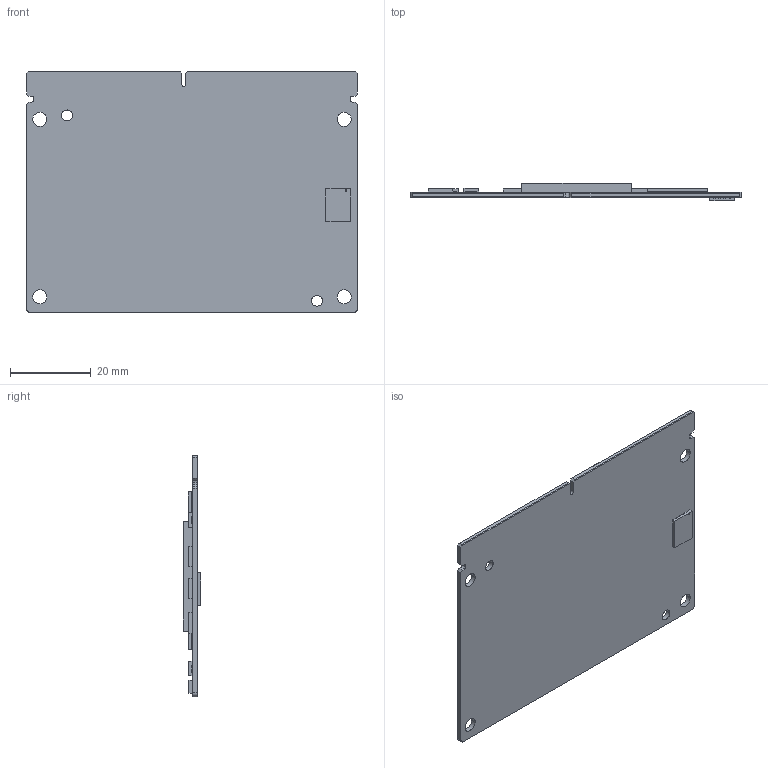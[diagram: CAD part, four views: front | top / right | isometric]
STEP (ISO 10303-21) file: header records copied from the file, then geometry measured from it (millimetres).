
FILE_DESCRIPTION((''),'2;1');
FILE_NAME('_OFFERING_1_ASM','2023-04-10T17:41:58',('dWX1091079'),(''),'CREO PARAMETRIC BY PTC INC, 2019444','CREO PARAMETRIC BY PTC INC, 2019444','');
FILE_SCHEMA(('CONFIG_CONTROL_DESIGN'));
Length unit declared in the file: millimetre
Products named in the file (12): _OFFERING_1_1; _OFFERING_1_2; _OFFERING_1_3; _OFFERING_1_4; _OFFERING_1_5; _OFFERING_1_6; _OFFERING_1_7; _OFFERING_1_8; _OFFERING_1_9; _OFFERING_1_10; LIANJIEQI; _OFFERING_1_ASM
Assembly tree (12 placements, depth 2):
  _OFFERING_1_ASM
    _OFFERING_1_1
    _OFFERING_1_2
    _OFFERING_1_3
    _OFFERING_1_4
    _OFFERING_1_5
    _OFFERING_1_6
    _OFFERING_1_7
    _OFFERING_1_8
    _OFFERING_1_9
    _OFFERING_1_10
    LIANJIEQI  x2
Bounding box: 82 x 4.39 x 60 mm (x, y, z)
Volume: 8108.6 mm3; surface area: 12180.5 mm2
Topology: 9 solids, 108 shells, 580 faces, 2833 edges, 2363 vertices
Faces by surface type: plane 446, cylinder 92, sphere 42
Entity records: 30736 total; most frequent: CARTESIAN_POINT 9343, ORIENTED_EDGE 4100, DIRECTION 3679, EDGE_CURVE 2779, VERTEX_POINT 2355, VECTOR 2035, LINE 2035, AXIS2_PLACEMENT_3D 822
